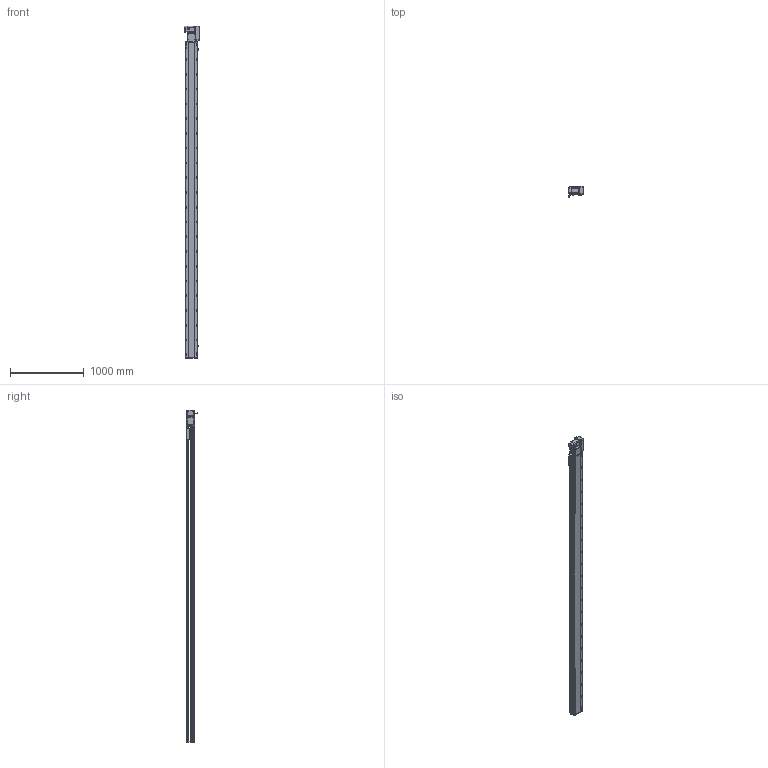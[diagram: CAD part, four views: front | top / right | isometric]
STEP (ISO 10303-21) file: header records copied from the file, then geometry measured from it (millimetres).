
FILE_DESCRIPTION (( 'STEP AP214' ), '1' );
FILE_NAME ('RTB17S-XX-4000-R-M75-C4.STEP', '2025-12-12T01:57:18', ( '' ), ( '' ), 'SwSTEP 2.0', 'SolidWorks 2018', '' );
FILE_SCHEMA (( 'AUTOMOTIVE_DESIGN' ));
Length unit declared in the file: millimetre
Products named in the file (15): RTB22S-GY-017P^RTB17S-R-々湍釱蚾饜-750W_RTB17S-XX-XX-R-M75-C4; 750W萇儂^RTB17S-XX-XX-R-M75-C4; RTB17S-XX-4000-R-M75-C4; RTB22S-GY-018P^RTB17S-R-々湍釱蚾饜-750W_RTB17S-XX-XX-R-M75-C4; RTB22S-GY-008-M75--萇儂啣^RTB17S-R-々湍釱蚾饜-750W_RTB17S-XX-XX-R-M75-C4; RTB17S-L-007奻裔^RTB17S-XX-XX-R-M75-C4; RTH13-BL-012覜茼え俋离^RTB17S-賑釱_RTB17S-XX-XX-R-M75-C4; RTB17S-L-001-耜醱啣^RTB17S-XX-XX-R-M75-C4; RTB17S-L-014-T20-P75--々湍釱^RTB17S-R-々湍釱蚾饜-750W_RTB17S-XX-XX-R-M75-C4; RTB22S-GY-005P^RTB17S-R-々湍釱蚾饜-750W_RTB17S-XX-XX-R-M75-C4; RTB17-R-011菁釱^RTB17S-XX-XX-R-M75-C4; EE672^RTB17S-XX-XX-R-M75-C4; RTB17S-賑釱^RTB17S-XX-XX-R-M75-C4; RTB17S-R-々湍釱蚾饜-750W^RTB17S-XX-XX-R-M75-C4; RTB17S-L-004-賑釱^RTB17S-賑釱_RTB17S-XX-XX-R-M75-C4
Assembly tree (17 placements, depth 3):
  RTB17S-XX-4000-R-M75-C4
    RTB17-R-011菁釱^RTB17S-XX-XX-R-M75-C4
    EE672^RTB17S-XX-XX-R-M75-C4  x3
    RTB17S-L-001-耜醱啣^RTB17S-XX-XX-R-M75-C4
    RTB17S-賑釱^RTB17S-XX-XX-R-M75-C4
      RTB17S-L-004-賑釱^RTB17S-賑釱_RTB17S-XX-XX-R-M75-C4
      RTH13-BL-012覜茼え俋离^RTB17S-賑釱_RTB17S-XX-XX-R-M75-C4
    RTB17S-L-007奻裔^RTB17S-XX-XX-R-M75-C4
    750W萇儂^RTB17S-XX-XX-R-M75-C4
    RTB17S-R-々湍釱蚾饜-750W^RTB17S-XX-XX-R-M75-C4
      RTB17S-L-014-T20-P75--々湍釱^RTB17S-R-々湍釱蚾饜-750W_RTB17S-XX-XX-R-M75-C4
      RTB22S-GY-005P^RTB17S-R-々湍釱蚾饜-750W_RTB17S-XX-XX-R-M75-C4
      RTB22S-GY-017P^RTB17S-R-々湍釱蚾饜-750W_RTB17S-XX-XX-R-M75-C4  x2
      RTB22S-GY-008-M75--萇儂啣^RTB17S-R-々湍釱蚾饜-750W_RTB17S-XX-XX-R-M75-C4
      RTB22S-GY-018P^RTB17S-R-々湍釱蚾饜-750W_RTB17S-XX-XX-R-M75-C4
Bounding box: 207.4 x 152.7 x 4499 mm (x, y, z)
Volume: 30957236.7 mm3; surface area: 5755007.4 mm2
Topology: 17 solids, 17 shells, 2329 faces, 6592 edges, 4274 vertices
Faces by surface type: plane 1000, cylinder 913, bspline 294, cone 110, sphere 8, torus 4
Entity records: 69622 total; most frequent: CARTESIAN_POINT 20856, ORIENTED_EDGE 10028, DIRECTION 9212, EDGE_CURVE 5014, AXIS2_PLACEMENT_3D 3294, VERTEX_POINT 3278, VECTOR 2624, LINE 2624
